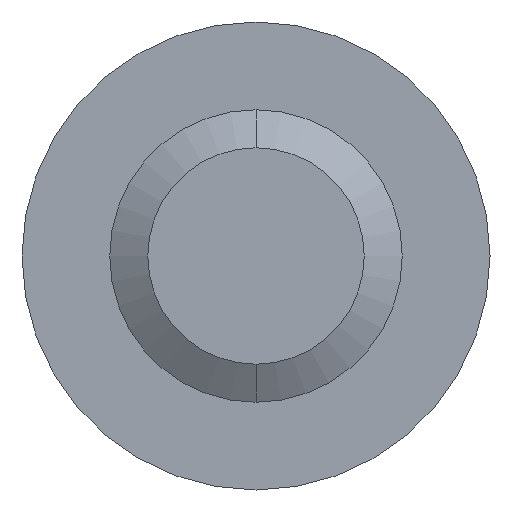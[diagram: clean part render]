
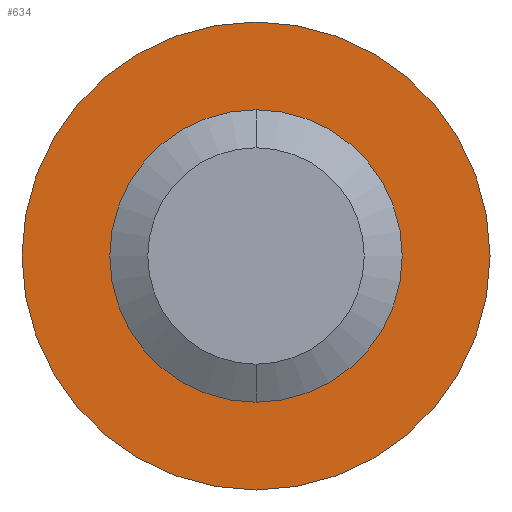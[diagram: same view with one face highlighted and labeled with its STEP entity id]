
A CAD part, front view. The second image highlights one B-rep face of the part: STEP entity #634.
In plain terms, the highlighted planar face has unit normal (0, -1, 0).
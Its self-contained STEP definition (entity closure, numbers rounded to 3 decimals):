
#50 = CARTESIAN_POINT ( 'NONE',  ( 0., 16., 0. ) ) ;
#80 = ORIENTED_EDGE ( 'NONE', *, *, #344, .T. ) ;
#154 = AXIS2_PLACEMENT_3D ( 'NONE', #324, #1056, #910 ) ;
#193 = CIRCLE ( 'NONE', #585, 5. ) ;
#196 = DIRECTION ( 'NONE',  ( 0., 1., 0. ) ) ;
#213 = CIRCLE ( 'NONE', #154, 5. ) ;
#258 = CARTESIAN_POINT ( 'NONE',  ( 0., 16., -8. ) ) ;
#324 = CARTESIAN_POINT ( 'NONE',  ( 0., 16., 0. ) ) ;
#344 = EDGE_CURVE ( 'NONE', #389, #1154, #193, .T. ) ;
#389 = VERTEX_POINT ( 'NONE', #1600 ) ;
#422 = CARTESIAN_POINT ( 'NONE',  ( 0., 16., 8. ) ) ;
#550 = DIRECTION ( 'NONE',  ( 0., 0., 1. ) ) ;
#568 = CARTESIAN_POINT ( 'NONE',  ( 0., 16., 0. ) ) ;
#585 = AXIS2_PLACEMENT_3D ( 'NONE', #50, #196, #1518 ) ;
#613 = PLANE ( 'NONE',  #649 ) ;
#634 = ADVANCED_FACE ( 'NONE', ( #762, #892 ), #613, .F. ) ;
#649 = AXIS2_PLACEMENT_3D ( 'NONE', #1196, #1512, #1182 ) ;
#715 = EDGE_CURVE ( 'NONE', #741, #884, #1533, .T. ) ;
#741 = VERTEX_POINT ( 'NONE', #258 ) ;
#762 = FACE_OUTER_BOUND ( 'NONE', #1432, .T. ) ;
#804 = CARTESIAN_POINT ( 'NONE',  ( 0., 16., 5. ) ) ;
#844 = ORIENTED_EDGE ( 'NONE', *, *, #964, .F. ) ;
#868 = CIRCLE ( 'NONE', #1385, 8. ) ;
#884 = VERTEX_POINT ( 'NONE', #422 ) ;
#892 = FACE_BOUND ( 'NONE', #1315, .T. ) ;
#910 = DIRECTION ( 'NONE',  ( 0., 0., 1. ) ) ;
#958 = AXIS2_PLACEMENT_3D ( 'NONE', #1108, #1849, #1838 ) ;
#964 = EDGE_CURVE ( 'NONE', #884, #741, #868, .T. ) ;
#1056 = DIRECTION ( 'NONE',  ( 0., 1., 0. ) ) ;
#1108 = CARTESIAN_POINT ( 'NONE',  ( 0., 16., 0. ) ) ;
#1154 = VERTEX_POINT ( 'NONE', #804 ) ;
#1156 = DIRECTION ( 'NONE',  ( 0., 1., 0. ) ) ;
#1182 = DIRECTION ( 'NONE',  ( 0., 0., 1. ) ) ;
#1196 = CARTESIAN_POINT ( 'NONE',  ( 0., 16., 0. ) ) ;
#1251 = ORIENTED_EDGE ( 'NONE', *, *, #715, .F. ) ;
#1315 = EDGE_LOOP ( 'NONE', ( #80, #1547 ) ) ;
#1385 = AXIS2_PLACEMENT_3D ( 'NONE', #568, #1156, #550 ) ;
#1432 = EDGE_LOOP ( 'NONE', ( #1251, #844 ) ) ;
#1512 = DIRECTION ( 'NONE',  ( 0., 1., 0. ) ) ;
#1518 = DIRECTION ( 'NONE',  ( 0., 0., 1. ) ) ;
#1533 = CIRCLE ( 'NONE', #958, 8. ) ;
#1547 = ORIENTED_EDGE ( 'NONE', *, *, #1850, .T. ) ;
#1600 = CARTESIAN_POINT ( 'NONE',  ( 0., 16., -5. ) ) ;
#1838 = DIRECTION ( 'NONE',  ( 0., 0., 1. ) ) ;
#1849 = DIRECTION ( 'NONE',  ( 0., 1., 0. ) ) ;
#1850 = EDGE_CURVE ( 'NONE', #1154, #389, #213, .T. ) ;
